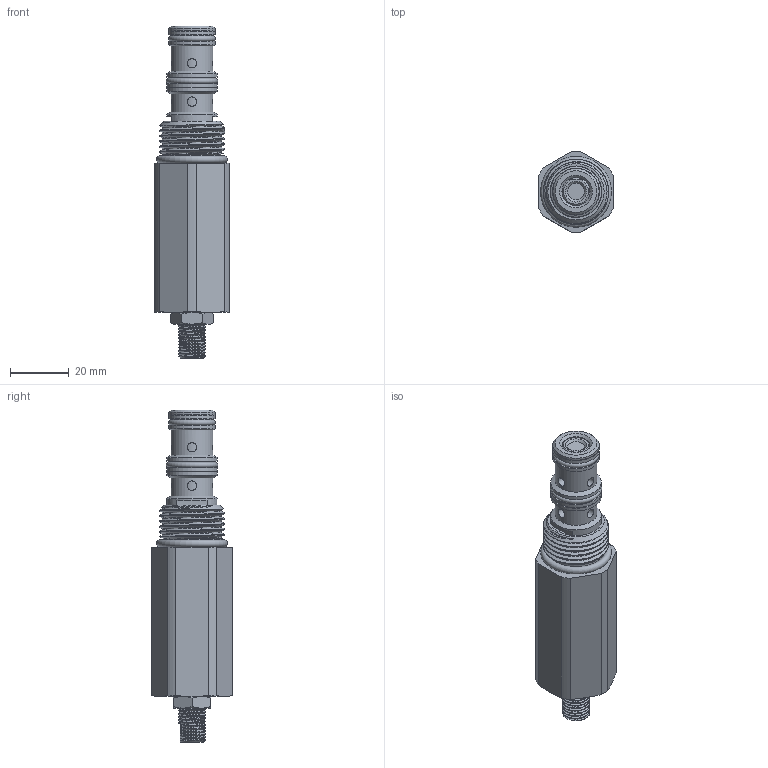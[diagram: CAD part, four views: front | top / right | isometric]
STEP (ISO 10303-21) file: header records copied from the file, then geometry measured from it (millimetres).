
FILE_DESCRIPTION(/* description */ ('','CAx-IF Rec.Pracs.---Representation and Presentation of Product Manufacturing Information (PMI)---4.0---2014-10-13'),/* implementation_level */ '2;1');
FILE_NAME(/* name */ 'P:\EARS\EAR16xx\EAR1683 - catalog pages changes\Group2_Distribution_12_16_22\RTech Agency_Tom\_step files\HDFPWP00.stp',/* time_stamp */ '2023-01-13T15:56:53-06:00',/* author */ ('Michael'),/* organization */ (''),/* preprocessor_version */ 'ST-DEVELOPER v17.2',/* originating_system */ 'Autodesk Inventor 2019',/* authorisation */ '');
FILE_SCHEMA (('AP242_MANAGED_MODEL_BASED_3D_ENGINEERING_MIM_LF { 1 0 10303 442 1 1 4 }'));
Length unit declared in the file: inch
Products named in the file (1): HDFPWP00
Bounding box: 25.4 x 27.67 x 112.98 mm (x, y, z)
Volume: 40424.2 mm3; surface area: 11007.3 mm2
Topology: 1 solids, 7 shells, 236 faces, 603 edges, 402 vertices
Faces by surface type: cylinder 74, plane 70, cone 42, bspline 39, torus 11
Full cylindrical faces by diameter (mm): 3.175 x8, 3.962 x1, 8.382 x3, 9.436 x5, 9.517 x1, 9.53 x1, 12.992 x1, 14.275 x2, 14.592 x2, 15.684 x1, 15.761 x2, 17.285 x1, 17.323 x3, 17.399 x1, 19.621 x2, 22.225 x5
Entity records: 15594 total; most frequent: CARTESIAN_POINT 10095, ORIENTED_EDGE 1206, DIRECTION 925, EDGE_CURVE 603, VERTEX_POINT 403, AXIS2_PLACEMENT_3D 383, EDGE_LOOP 264, FACE_OUTER_BOUND 236
